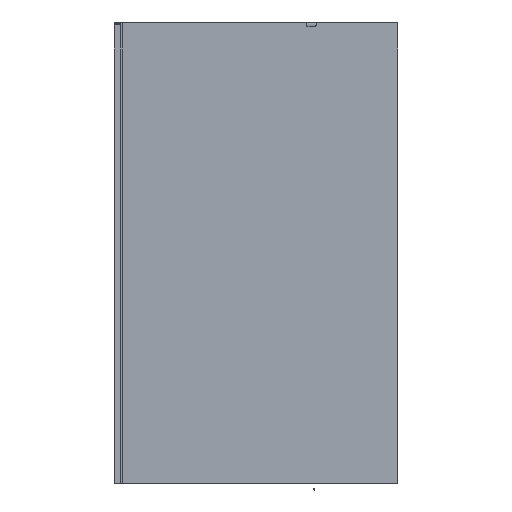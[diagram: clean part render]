
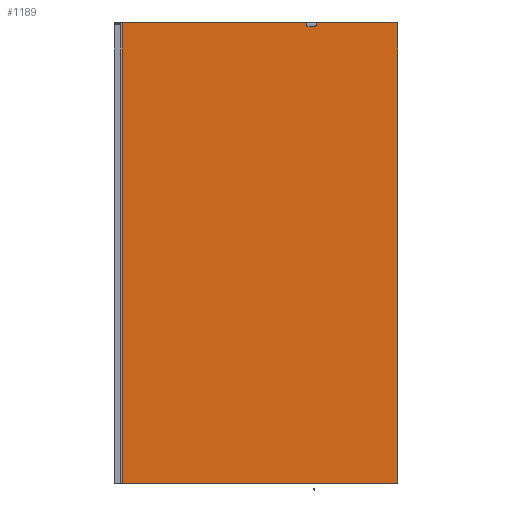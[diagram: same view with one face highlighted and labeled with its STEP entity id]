
A CAD part, front view. The second image highlights one B-rep face of the part: STEP entity #1189.
In plain terms, the highlighted planar face has unit normal (0, -1, 0) as drawn and (0, 0, 1) by its records, which use the part's own axes.
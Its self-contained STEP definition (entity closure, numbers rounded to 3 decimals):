
#1062=DIRECTION('',(1.,0.,0.));
#1063=VECTOR('',#1062,1175.);
#1064=CARTESIAN_POINT('',(-437.5,-975.,8.));
#1065=LINE('',#1064,#1063);
#1070=DIRECTION('',(0.,-1.,0.));
#1071=VECTOR('',#1070,1950.);
#1072=CARTESIAN_POINT('',(-437.5,975.,8.));
#1073=LINE('',#1072,#1071);
#1078=DIRECTION('',(-1.,0.,0.));
#1079=VECTOR('',#1078,1175.);
#1080=CARTESIAN_POINT('',(737.5,975.,8.));
#1081=LINE('',#1080,#1079);
#1086=DIRECTION('',(0.,1.,0.));
#1087=VECTOR('',#1086,1950.);
#1088=CARTESIAN_POINT('',(737.5,-975.,8.));
#1089=LINE('',#1088,#1087);
#1094=CARTESIAN_POINT('',(-437.5,-975.,8.));
#1095=VERTEX_POINT('',#1094);
#1096=CARTESIAN_POINT('',(-437.5,975.,8.));
#1097=VERTEX_POINT('',#1096);
#1102=CARTESIAN_POINT('',(737.5,-975.,8.));
#1103=VERTEX_POINT('',#1102);
#1104=CARTESIAN_POINT('',(737.5,975.,8.));
#1105=VERTEX_POINT('',#1104);
#1178=CARTESIAN_POINT('',(0.,0.,8.));
#1179=DIRECTION('',(0.,0.,1.));
#1180=DIRECTION('',(1.,0.,0.));
#1181=AXIS2_PLACEMENT_3D('',#1178,#1179,#1180);
#1182=PLANE('',#1181);
#1183=ORIENTED_EDGE('',*,*,#1130,.F.);
#1184=ORIENTED_EDGE('',*,*,#1145,.F.);
#1185=ORIENTED_EDGE('',*,*,#1159,.F.);
#1186=ORIENTED_EDGE('',*,*,#1172,.F.);
#1187=EDGE_LOOP('',(#1183,#1184,#1185,#1186));
#1188=FACE_OUTER_BOUND('',#1187,.F.);
#1189=ADVANCED_FACE('',(#1188),#1182,.T.);
#1130=EDGE_CURVE('',#1095,#1103,#1065,.T.);
#1145=EDGE_CURVE('',#1097,#1095,#1073,.T.);
#1159=EDGE_CURVE('',#1105,#1097,#1081,.T.);
#1172=EDGE_CURVE('',#1103,#1105,#1089,.T.);
